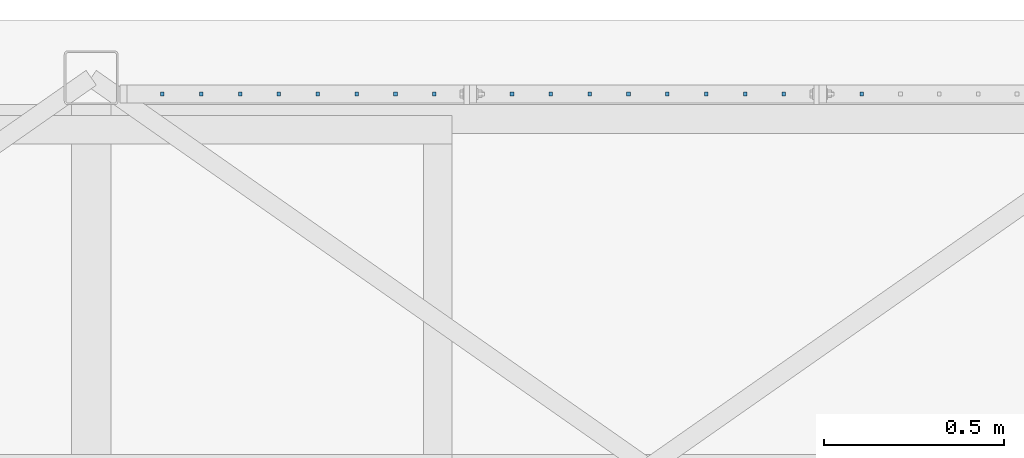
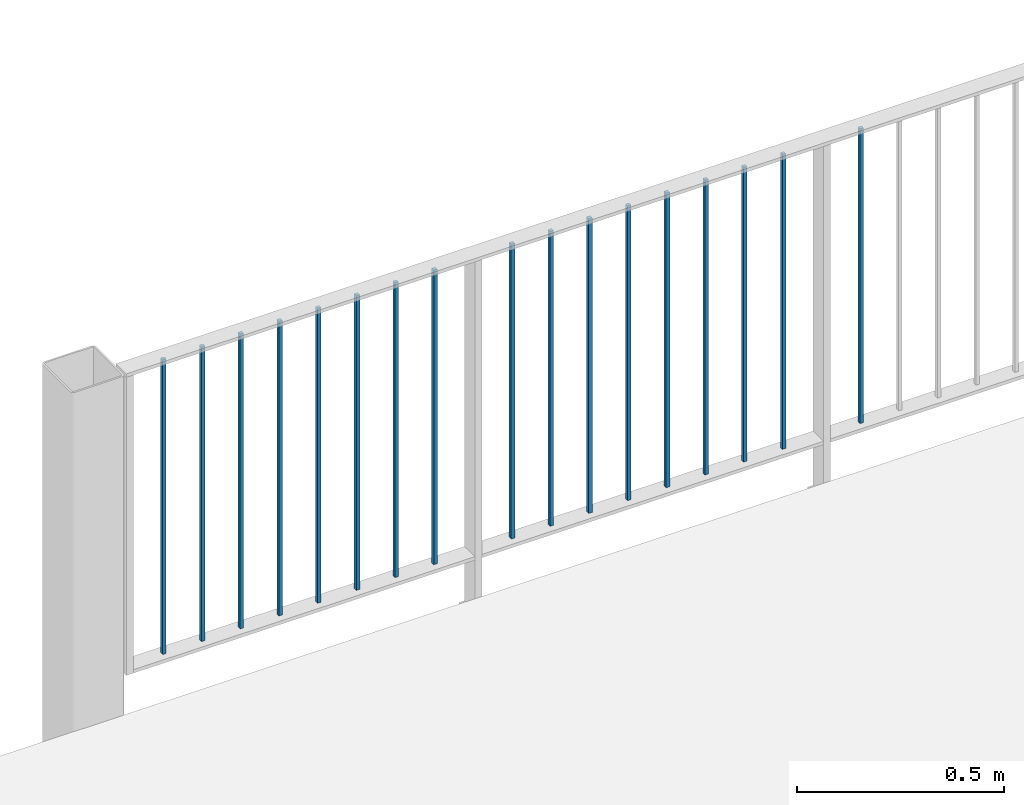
# One storey, part 52 of 78: 17 beams, 1 element without a shape of its own.
"""IFC2X3 building model written with IfcOpenShell, lengths in millimetres."""

from ifc_helpers import new_model, si_unit, frame, origin_with_axes, origin_2d_with_axis, place, context, subcontext, project, spatial, rectangle, extrude, clip, halfspace, material, type_object, element, aggregate, save


model = new_model("IFC2X3")

# Units and contexts
model_context = context("Model", 3, precision=1e-05, world=origin_with_axes())
body_context = subcontext(model_context, "Body", "Model", "MODEL_VIEW")
ifc_project = project(units=[si_unit("LENGTHUNIT", "METRE", prefix="MILLI"), si_unit("AREAUNIT", "SQUARE_METRE"), si_unit("VOLUMEUNIT", "CUBIC_METRE"), si_unit("MASSUNIT", "GRAM", prefix="KILO"), si_unit("TIMEUNIT", "SECOND"), si_unit("PLANEANGLEUNIT", "RADIAN"), si_unit("SOLIDANGLEUNIT", "STERADIAN"), si_unit("THERMODYNAMICTEMPERATUREUNIT", "DEGREE_CELSIUS"), si_unit("LUMINOUSINTENSITYUNIT", "LUMEN")], contexts=[model_context])

# Site, building, storey
site_placement = place(None, origin_with_axes())
site = spatial("IfcSite", under=ifc_project, at=site_placement, Name="Site", CompositionType="ELEMENT")
building_placement = place(site_placement, origin_with_axes())
building = spatial("IfcBuilding", under=site, at=building_placement, Name="Undefined", CompositionType="ELEMENT")
storey_placement = place(building_placement, origin_with_axes())
storey = spatial("IfcBuildingStorey", under=building, at=storey_placement, Name="Undefined", CompositionType="ELEMENT", Elevation=0.0)

# Assembly, beams
assembly_placement = place(storey_placement, origin_with_axes())
assembly = element("IfcElementAssembly", 1, at=assembly_placement, inside=storey, Name="MAIN_COURANTE", AssemblyPlace="NOTDEFINED", PredefinedType="RIGID_FRAME")
ifc_material = material(Name="STEEL/S235JR")
beam_type = type_object("IfcBeamType", Name="PL10*10", PredefinedType="NOTDEFINED")
beam_1_placement = place(assembly_placement, frame((-1403.28185185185, 32873.0, 157695.04), z_axis=(0.0, -1.0, 0.0), x_axis=(0.0, 0.0, -1.0)))
beam_1 = element("IfcBeam", 2, at=beam_1_placement, type_object=beam_type, material=ifc_material, Name="LISSE", ObjectType="PL10*10", context=body_context, shape_type="Clipping", body=[
    clip(clip(extrude(rectangle(XDim=10.0, YDim=10.0, at=origin_2d_with_axis()), frame((880.0, 0.0, 0.0), z_axis=(-1.0, 0.0, 0.0), x_axis=(0.0, -1.0, 0.0)), (0.0, 0.0, 1.0), 880.0), halfspace(frame((875.0, 0.0, 1005.0), z_axis=(1.0, 0.0, 0.0), x_axis=(0.0, 1.0, 0.0)), False)), halfspace(frame((5.0, 0.0, 1005.0), z_axis=(-1.0, 0.0, 0.0), x_axis=(0.0, -1.0, 0.0)), False)),
])
beam_2_placement = place(assembly_placement, frame((-1295.1337037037, 32873.0, 157695.04), z_axis=(0.0, -1.0, 0.0), x_axis=(0.0, 0.0, -1.0)))
beam_2 = element("IfcBeam", 3, at=beam_2_placement, type_object=beam_type, material=ifc_material, Name="LISSE", ObjectType="PL10*10", context=body_context, shape_type="Clipping", body=[
    clip(clip(extrude(rectangle(XDim=10.0, YDim=10.0, at=origin_2d_with_axis()), frame((880.0, 0.0, 0.0), z_axis=(-1.0, 0.0, 0.0), x_axis=(0.0, -1.0, 0.0)), (0.0, 0.0, 1.0), 880.0), halfspace(frame((875.0, 0.0, 1005.0), z_axis=(1.0, 0.0, 0.0), x_axis=(0.0, 1.0, 0.0)), False)), halfspace(frame((5.0, 0.0, 1005.0), z_axis=(-1.0, 0.0, 0.0), x_axis=(0.0, -1.0, 0.0)), False)),
])
beam_3_placement = place(assembly_placement, frame((-1186.98555555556, 32873.0, 157695.04), z_axis=(0.0, -1.0, 0.0), x_axis=(0.0, 0.0, -1.0)))
beam_3 = element("IfcBeam", 4, at=beam_3_placement, type_object=beam_type, material=ifc_material, Name="LISSE", ObjectType="PL10*10", context=body_context, shape_type="Clipping", body=[
    clip(clip(extrude(rectangle(XDim=10.0, YDim=10.0, at=origin_2d_with_axis()), frame((880.0, 0.0, 0.0), z_axis=(-1.0, 0.0, 0.0), x_axis=(0.0, -1.0, 0.0)), (0.0, 0.0, 1.0), 880.0), halfspace(frame((875.0, 0.0, 1005.0), z_axis=(1.0, 0.0, 0.0), x_axis=(0.0, 1.0, 0.0)), False)), halfspace(frame((5.0, 0.0, 1005.0), z_axis=(-1.0, 0.0, 0.0), x_axis=(0.0, -1.0, 0.0)), False)),
])
beam_4_placement = place(assembly_placement, frame((-1078.83740740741, 32873.0, 157695.04), z_axis=(0.0, -1.0, 0.0), x_axis=(0.0, 0.0, -1.0)))
beam_4 = element("IfcBeam", 5, at=beam_4_placement, type_object=beam_type, material=ifc_material, Name="LISSE", ObjectType="PL10*10", context=body_context, shape_type="Clipping", body=[
    clip(clip(extrude(rectangle(XDim=10.0, YDim=10.0, at=origin_2d_with_axis()), frame((880.0, 0.0, 0.0), z_axis=(-1.0, 0.0, 0.0), x_axis=(0.0, -1.0, 0.0)), (0.0, 0.0, 1.0), 880.0), halfspace(frame((875.0, 0.0, 1005.0), z_axis=(1.0, 0.0, 0.0), x_axis=(0.0, 1.0, 0.0)), False)), halfspace(frame((5.0, 0.0, 1005.0), z_axis=(-1.0, 0.0, 0.0), x_axis=(0.0, -1.0, 0.0)), False)),
])
beam_5_placement = place(assembly_placement, frame((-754.392962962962, 32873.0, 157695.04), z_axis=(0.0, -1.0, 0.0), x_axis=(0.0, 0.0, -1.0)))
beam_5 = element("IfcBeam", 6, at=beam_5_placement, type_object=beam_type, material=ifc_material, Name="LISSE", ObjectType="PL10*10", context=body_context, shape_type="Clipping", body=[
    clip(clip(extrude(rectangle(XDim=10.0, YDim=10.0, at=origin_2d_with_axis()), frame((880.0, 0.0, 0.0), z_axis=(-1.0, 0.0, 0.0), x_axis=(0.0, -1.0, 0.0)), (0.0, 0.0, 1.0), 880.0), halfspace(frame((875.0, 0.0, 1005.0), z_axis=(1.0, 0.0, 0.0), x_axis=(0.0, 1.0, 0.0)), False)), halfspace(frame((5.0, 0.0, 1005.0), z_axis=(-1.0, 0.0, 0.0), x_axis=(0.0, -1.0, 0.0)), False)),
])
beam_6_placement = place(assembly_placement, frame((-970.689259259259, 32873.0, 157695.04), z_axis=(0.0, -1.0, 0.0), x_axis=(0.0, 0.0, -1.0)))
beam_6 = element("IfcBeam", 7, at=beam_6_placement, type_object=beam_type, material=ifc_material, Name="LISSE", ObjectType="PL10*10", context=body_context, shape_type="Clipping", body=[
    clip(clip(extrude(rectangle(XDim=10.0, YDim=10.0, at=origin_2d_with_axis()), frame((880.0, 0.0, 0.0), z_axis=(-1.0, 0.0, 0.0), x_axis=(0.0, -1.0, 0.0)), (0.0, 0.0, 1.0), 880.0), halfspace(frame((875.0, 0.0, 1005.0), z_axis=(1.0, 0.0, 0.0), x_axis=(0.0, 1.0, 0.0)), False)), halfspace(frame((5.0, 0.0, 1005.0), z_axis=(-1.0, 0.0, 0.0), x_axis=(0.0, -1.0, 0.0)), False)),
])
beam_7_placement = place(assembly_placement, frame((-862.54111111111, 32873.0, 157695.04), z_axis=(0.0, -1.0, 0.0), x_axis=(0.0, 0.0, -1.0)))
beam_7 = element("IfcBeam", 8, at=beam_7_placement, type_object=beam_type, material=ifc_material, Name="LISSE", ObjectType="PL10*10", context=body_context, shape_type="Clipping", body=[
    clip(clip(extrude(rectangle(XDim=10.0, YDim=10.0, at=origin_2d_with_axis()), frame((880.0, 0.0, 0.0), z_axis=(-1.0, 0.0, 0.0), x_axis=(0.0, -1.0, 0.0)), (0.0, 0.0, 1.0), 880.0), halfspace(frame((875.0, 0.0, 1005.0), z_axis=(1.0, 0.0, 0.0), x_axis=(0.0, 1.0, 0.0)), False)), halfspace(frame((5.0, 0.0, 1005.0), z_axis=(-1.0, 0.0, 0.0), x_axis=(0.0, -1.0, 0.0)), False)),
])
beam_8_placement = place(assembly_placement, frame((-646.244814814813, 32873.0, 157695.04), z_axis=(0.0, -1.0, 0.0), x_axis=(0.0, 0.0, -1.0)))
beam_8 = element("IfcBeam", 9, at=beam_8_placement, type_object=beam_type, material=ifc_material, Name="LISSE", ObjectType="PL10*10", context=body_context, shape_type="Clipping", body=[
    clip(clip(extrude(rectangle(XDim=10.0, YDim=10.0, at=origin_2d_with_axis()), frame((880.0, 0.0, 0.0), z_axis=(-1.0, 0.0, 0.0), x_axis=(0.0, -1.0, 0.0)), (0.0, 0.0, 1.0), 880.0), halfspace(frame((875.0, 0.0, 1005.0), z_axis=(1.0, 0.0, 0.0), x_axis=(0.0, 1.0, 0.0)), False)), halfspace(frame((5.0, 0.0, 1005.0), z_axis=(-1.0, 0.0, 0.0), x_axis=(0.0, -1.0, 0.0)), False)),
])
beam_9_placement = place(assembly_placement, frame((-429.948518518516, 32873.0, 157695.04), z_axis=(0.0, -1.0, 0.0), x_axis=(0.0, 0.0, -1.0)))
beam_9 = element("IfcBeam", 10, at=beam_9_placement, type_object=beam_type, material=ifc_material, Name="LISSE", ObjectType="PL10*10", context=body_context, shape_type="Clipping", body=[
    clip(clip(extrude(rectangle(XDim=10.0, YDim=10.0, at=origin_2d_with_axis()), frame((880.0, 0.0, 0.0), z_axis=(-1.0, 0.0, 0.0), x_axis=(0.0, -1.0, 0.0)), (0.0, 0.0, 1.0), 880.0), halfspace(frame((875.0, 0.0, 1005.0), z_axis=(1.0, 0.0, 0.0), x_axis=(0.0, 1.0, 0.0)), False)), halfspace(frame((5.0, 0.0, 1005.0), z_axis=(-1.0, 0.0, 0.0), x_axis=(0.0, -1.0, 0.0)), False)),
])
beam_10_placement = place(assembly_placement, frame((-321.800370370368, 32873.0, 157695.04), z_axis=(0.0, -1.0, 0.0), x_axis=(0.0, 0.0, -1.0)))
beam_10 = element("IfcBeam", 11, at=beam_10_placement, type_object=beam_type, material=ifc_material, Name="LISSE", ObjectType="PL10*10", context=body_context, shape_type="Clipping", body=[
    clip(clip(extrude(rectangle(XDim=10.0, YDim=10.0, at=origin_2d_with_axis()), frame((880.0, 0.0, 0.0), z_axis=(-1.0, 0.0, 0.0), x_axis=(0.0, -1.0, 0.0)), (0.0, 0.0, 1.0), 880.0), halfspace(frame((875.0, 0.0, 1005.0), z_axis=(1.0, 0.0, 0.0), x_axis=(0.0, 1.0, 0.0)), False)), halfspace(frame((5.0, 0.0, 1005.0), z_axis=(-1.0, 0.0, 0.0), x_axis=(0.0, -1.0, 0.0)), False)),
])
beam_11_placement = place(assembly_placement, frame((-213.652222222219, 32873.0, 157695.04), z_axis=(0.0, -1.0, 0.0), x_axis=(0.0, 0.0, -1.0)))
beam_11 = element("IfcBeam", 12, at=beam_11_placement, type_object=beam_type, material=ifc_material, Name="LISSE", ObjectType="PL10*10", context=body_context, shape_type="Clipping", body=[
    clip(clip(extrude(rectangle(XDim=10.0, YDim=10.0, at=origin_2d_with_axis()), frame((880.0, 0.0, 0.0), z_axis=(-1.0, 0.0, 0.0), x_axis=(0.0, -1.0, 0.0)), (0.0, 0.0, 1.0), 880.0), halfspace(frame((875.0, 0.0, 1005.0), z_axis=(1.0, 0.0, 0.0), x_axis=(0.0, 1.0, 0.0)), False)), halfspace(frame((5.0, 0.0, 1005.0), z_axis=(-1.0, 0.0, 0.0), x_axis=(0.0, -1.0, 0.0)), False)),
])
beam_12_placement = place(assembly_placement, frame((-105.504074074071, 32873.0, 157695.04), z_axis=(0.0, -1.0, 0.0), x_axis=(0.0, 0.0, -1.0)))
beam_12 = element("IfcBeam", 13, at=beam_12_placement, type_object=beam_type, material=ifc_material, Name="LISSE", ObjectType="PL10*10", context=body_context, shape_type="Clipping", body=[
    clip(clip(extrude(rectangle(XDim=10.0, YDim=10.0, at=origin_2d_with_axis()), frame((880.0, 0.0, 0.0), z_axis=(-1.0, 0.0, 0.0), x_axis=(0.0, -1.0, 0.0)), (0.0, 0.0, 1.0), 880.0), halfspace(frame((875.0, 0.0, 1005.0), z_axis=(1.0, 0.0, 0.0), x_axis=(0.0, 1.0, 0.0)), False)), halfspace(frame((5.0, 0.0, 1005.0), z_axis=(-1.0, 0.0, 0.0), x_axis=(0.0, -1.0, 0.0)), False)),
])
beam_13_placement = place(assembly_placement, frame((2.64407407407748, 32873.0, 157695.04), z_axis=(0.0, -1.0, 0.0), x_axis=(0.0, 0.0, -1.0)))
beam_13 = element("IfcBeam", 14, at=beam_13_placement, type_object=beam_type, material=ifc_material, Name="LISSE", ObjectType="PL10*10", context=body_context, shape_type="Clipping", body=[
    clip(clip(extrude(rectangle(XDim=10.0, YDim=10.0, at=origin_2d_with_axis()), frame((880.0, 0.0, 0.0), z_axis=(-1.0, 0.0, 0.0), x_axis=(0.0, -1.0, 0.0)), (0.0, 0.0, 1.0), 880.0), halfspace(frame((875.0, 0.0, 1005.0), z_axis=(1.0, 0.0, 0.0), x_axis=(0.0, 1.0, 0.0)), False)), halfspace(frame((5.0, 0.0, 1005.0), z_axis=(-1.0, 0.0, 0.0), x_axis=(0.0, -1.0, 0.0)), False)),
])
beam_14_placement = place(assembly_placement, frame((110.792222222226, 32873.0, 157695.04), z_axis=(0.0, -1.0, 0.0), x_axis=(0.0, 0.0, -1.0)))
beam_14 = element("IfcBeam", 15, at=beam_14_placement, type_object=beam_type, material=ifc_material, Name="LISSE", ObjectType="PL10*10", context=body_context, shape_type="Clipping", body=[
    clip(clip(extrude(rectangle(XDim=10.0, YDim=10.0, at=origin_2d_with_axis()), frame((880.0, 0.0, 0.0), z_axis=(-1.0, 0.0, 0.0), x_axis=(0.0, -1.0, 0.0)), (0.0, 0.0, 1.0), 880.0), halfspace(frame((875.0, 0.0, 1005.0), z_axis=(1.0, 0.0, 0.0), x_axis=(0.0, 1.0, 0.0)), False)), halfspace(frame((5.0, 0.0, 1005.0), z_axis=(-1.0, 0.0, 0.0), x_axis=(0.0, -1.0, 0.0)), False)),
])
beam_15_placement = place(assembly_placement, frame((218.940370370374, 32873.0, 157695.04), z_axis=(0.0, -1.0, 0.0), x_axis=(0.0, 0.0, -1.0)))
beam_15 = element("IfcBeam", 16, at=beam_15_placement, type_object=beam_type, material=ifc_material, Name="LISSE", ObjectType="PL10*10", context=body_context, shape_type="Clipping", body=[
    clip(clip(extrude(rectangle(XDim=10.0, YDim=10.0, at=origin_2d_with_axis()), frame((880.0, 0.0, 0.0), z_axis=(-1.0, 0.0, 0.0), x_axis=(0.0, -1.0, 0.0)), (0.0, 0.0, 1.0), 880.0), halfspace(frame((875.0, 0.0, 1005.0), z_axis=(1.0, 0.0, 0.0), x_axis=(0.0, 1.0, 0.0)), False)), halfspace(frame((5.0, 0.0, 1005.0), z_axis=(-1.0, 0.0, 0.0), x_axis=(0.0, -1.0, 0.0)), False)),
])
beam_16_placement = place(assembly_placement, frame((327.088518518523, 32873.0, 157695.04), z_axis=(0.0, -1.0, 0.0), x_axis=(0.0, 0.0, -1.0)))
beam_16 = element("IfcBeam", 17, at=beam_16_placement, type_object=beam_type, material=ifc_material, Name="LISSE", ObjectType="PL10*10", context=body_context, shape_type="Clipping", body=[
    clip(clip(extrude(rectangle(XDim=10.0, YDim=10.0, at=origin_2d_with_axis()), frame((880.0, 0.0, 0.0), z_axis=(-1.0, 0.0, 0.0), x_axis=(0.0, -1.0, 0.0)), (0.0, 0.0, 1.0), 880.0), halfspace(frame((875.0, 0.0, 1005.0), z_axis=(1.0, 0.0, 0.0), x_axis=(0.0, 1.0, 0.0)), False)), halfspace(frame((5.0, 0.0, 1005.0), z_axis=(-1.0, 0.0, 0.0), x_axis=(0.0, -1.0, 0.0)), False)),
])
beam_17_placement = place(assembly_placement, frame((543.38481481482, 32873.0, 157695.04), z_axis=(0.0, -1.0, 0.0), x_axis=(0.0, 0.0, -1.0)))
beam_17 = element("IfcBeam", 18, at=beam_17_placement, type_object=beam_type, material=ifc_material, Name="LISSE", ObjectType="PL10*10", context=body_context, shape_type="Clipping", body=[
    clip(clip(extrude(rectangle(XDim=10.0, YDim=10.0, at=origin_2d_with_axis()), frame((880.0, 0.0, 0.0), z_axis=(-1.0, 0.0, 0.0), x_axis=(0.0, -1.0, 0.0)), (0.0, 0.0, 1.0), 880.0), halfspace(frame((875.0, 0.0, 1005.0), z_axis=(1.0, 0.0, 0.0), x_axis=(0.0, 1.0, 0.0)), False)), halfspace(frame((5.0, 0.0, 1005.0), z_axis=(-1.0, 0.0, 0.0), x_axis=(0.0, -1.0, 0.0)), False)),
])
aggregate(assembly, [beam_1, beam_2, beam_3, beam_4, beam_5, beam_6, beam_7, beam_8, beam_9, beam_10, beam_11, beam_12, beam_13, beam_14, beam_15, beam_16, beam_17])

save(model, "model.ifc")
